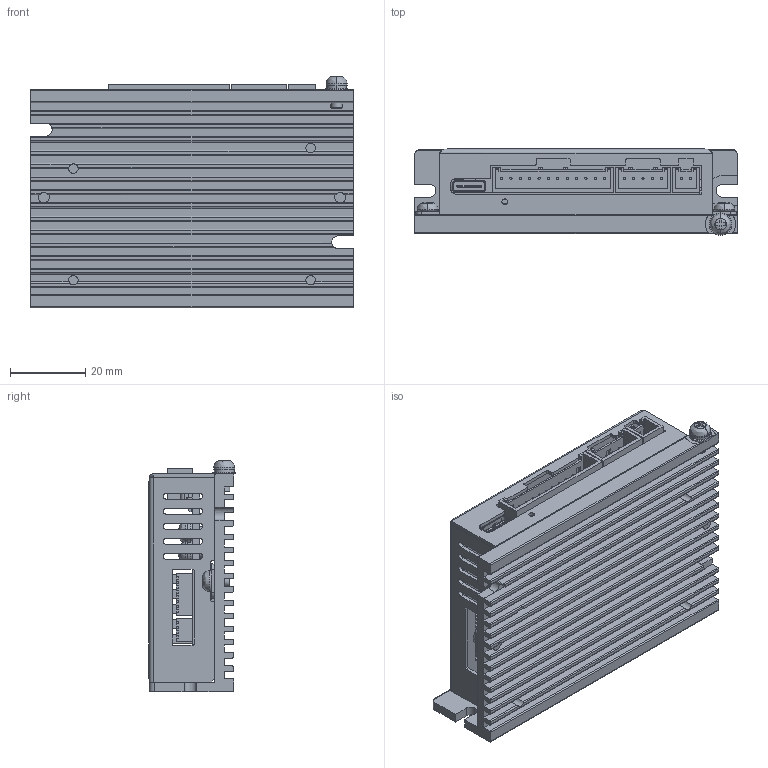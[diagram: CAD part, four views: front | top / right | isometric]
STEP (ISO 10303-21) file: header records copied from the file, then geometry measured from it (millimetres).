
FILE_DESCRIPTION((''),'2;1');
FILE_NAME('PRT0001','2025-08-13T17:27:37',('Admin'),(''),'CREO PARAMETRIC BY PTC INC, 2020074','CREO PARAMETRIC BY PTC INC, 2020074','');
FILE_SCHEMA(('CONFIG_CONTROL_DESIGN'));
Products named in the file (1): PRT0001
Bounding box: 86 x 23.15 x 61.75 mm (x, y, z)
Volume: 40102.3 mm3; surface area: 46268.9 mm2
Topology: 2 solids, 5 shells, 1832 faces, 5276 edges, 3471 vertices
Faces by surface type: plane 993, cylinder 519, bspline 146, torus 142, sphere 14, extrusion 14, cone 4
Entity records: 72638 total; most frequent: CARTESIAN_POINT 24085, ORIENTED_EDGE 10520, DIRECTION 9647, EDGE_CURVE 5260, VERTEX_POINT 3469, VECTOR 3295, LINE 3281, AXIS2_PLACEMENT_3D 3176
